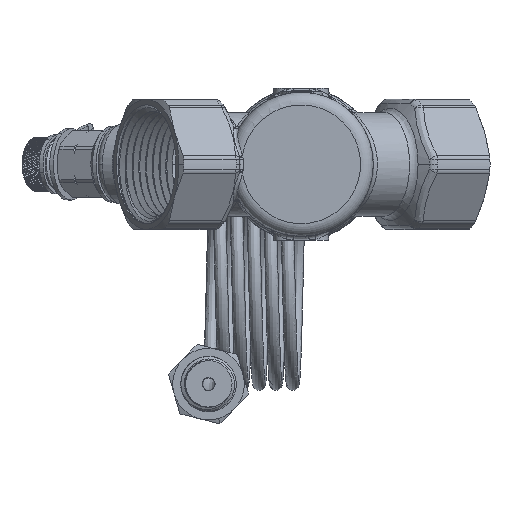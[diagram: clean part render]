
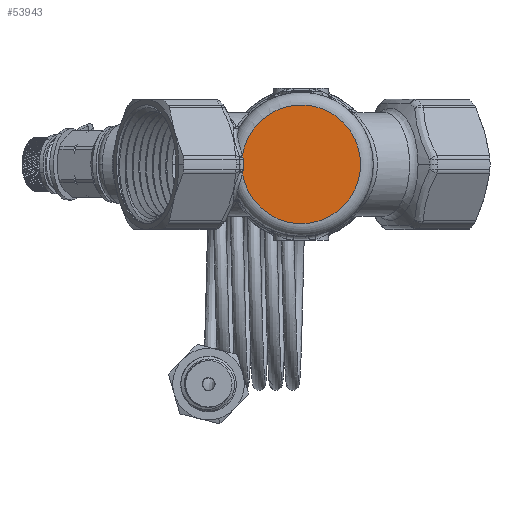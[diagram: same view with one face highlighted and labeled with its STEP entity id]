
A CAD part, front view. The second image highlights one B-rep face of the part: STEP entity #53943.
In plain terms, the highlighted planar face has unit normal (0, -1, 0).
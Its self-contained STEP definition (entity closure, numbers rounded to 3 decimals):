
#1287 = CARTESIAN_POINT ( 'NONE',  ( -16.391, -57.3, -1.821 ) ) ;
#4776 = CARTESIAN_POINT ( 'NONE',  ( -16.391, -57.3, 1.821 ) ) ;
#8828 = EDGE_CURVE ( 'NONE', #87993, #249132, #281576, .T. ) ;
#14526 = AXIS2_PLACEMENT_3D ( 'NONE', #133174, #241859, #270885 ) ;
#27870 = CARTESIAN_POINT ( 'NONE',  ( -2.5, -57.3, 0. ) ) ;
#30076 = CIRCLE ( 'NONE', #76339, 2.678 ) ;
#43268 = B_SPLINE_CURVE_WITH_KNOTS ( 'NONE', 3,
 ( #111840, #1287, #332914, #285713 ),
 .UNSPECIFIED., .F., .F.,
 ( 4, 4 ),
 ( 0., 0. ),
 .UNSPECIFIED. ) ;
#48578 = DIRECTION ( 'NONE',  ( 0., 1., 0. ) ) ;
#53943 = ADVANCED_FACE ( 'NONE', ( #330471 ), #334067, .F. ) ;
#65124 = EDGE_CURVE ( 'NONE', #97700, #112127, #43268, .T. ) ;
#76339 = AXIS2_PLACEMENT_3D ( 'NONE', #287816, #240490, #153643 ) ;
#77379 = ORIENTED_EDGE ( 'NONE', *, *, #173887, .T. ) ;
#82201 = DIRECTION ( 'NONE',  ( 0., 1., 0. ) ) ;
#87993 = VERTEX_POINT ( 'NONE', #291632 ) ;
#91353 = EDGE_LOOP ( 'NONE', ( #254234, #213155, #201722, #218021, #77379, #206273 ) ) ;
#96732 = EDGE_CURVE ( 'NONE', #274308, #143286, #145989, .T. ) ;
#97700 = VERTEX_POINT ( 'NONE', #342727 ) ;
#108799 = CIRCLE ( 'NONE', #311443, 2.678 ) ;
#111840 = CARTESIAN_POINT ( 'NONE',  ( -16.365, -57.3, -1.711 ) ) ;
#112127 = VERTEX_POINT ( 'NONE', #194622 ) ;
#117095 = CARTESIAN_POINT ( 'NONE',  ( -16.365, -57.3, 1.711 ) ) ;
#133174 = CARTESIAN_POINT ( 'NONE',  ( -2.5, -57.3, 0. ) ) ;
#140688 = CARTESIAN_POINT ( 'NONE',  ( -16.452, -57.3, 2.041 ) ) ;
#143286 = VERTEX_POINT ( 'NONE', #269102 ) ;
#145989 = B_SPLINE_CURVE_WITH_KNOTS ( 'NONE', 3,
 ( #140688, #339984, #4776, #117095 ),
 .UNSPECIFIED., .F., .F.,
 ( 4, 4 ),
 ( 0., 0. ),
 .UNSPECIFIED. ) ;
#153643 = DIRECTION ( 'NONE',  ( 1., 0., 0. ) ) ;
#160007 = AXIS2_PLACEMENT_3D ( 'NONE', #27870, #82201, #198136 ) ;
#164448 = CARTESIAN_POINT ( 'NONE',  ( -18.969, -57.3, -1.088 ) ) ;
#169558 = CARTESIAN_POINT ( 'NONE',  ( -16.295, -57.3, 1.236 ) ) ;
#173887 = EDGE_CURVE ( 'NONE', #143286, #87993, #30076, .T. ) ;
#194622 = CARTESIAN_POINT ( 'NONE',  ( -16.452, -57.3, -2.041 ) ) ;
#198136 = DIRECTION ( 'NONE',  ( 1., 0., 0. ) ) ;
#199705 = EDGE_CURVE ( 'NONE', #112127, #274308, #355941, .T. ) ;
#201722 = ORIENTED_EDGE ( 'NONE', *, *, #199705, .T. ) ;
#206273 = ORIENTED_EDGE ( 'NONE', *, *, #8828, .T. ) ;
#213155 = ORIENTED_EDGE ( 'NONE', *, *, #65124, .T. ) ;
#218021 = ORIENTED_EDGE ( 'NONE', *, *, #96732, .T. ) ;
#220568 = DIRECTION ( 'NONE',  ( 1., 0., 0. ) ) ;
#231915 = CARTESIAN_POINT ( 'NONE',  ( -16.452, -57.3, 2.041 ) ) ;
#240490 = DIRECTION ( 'NONE',  ( 0., 1., 0. ) ) ;
#241859 = DIRECTION ( 'NONE',  ( 0., -1., 0. ) ) ;
#249132 = VERTEX_POINT ( 'NONE', #322724 ) ;
#249261 = CARTESIAN_POINT ( 'NONE',  ( -16.249, -57.3, 0.413 ) ) ;
#254234 = ORIENTED_EDGE ( 'NONE', *, *, #309862, .T. ) ;
#269102 = CARTESIAN_POINT ( 'NONE',  ( -16.365, -57.3, 1.711 ) ) ;
#270885 = DIRECTION ( 'NONE',  ( -1., 0., 0. ) ) ;
#272936 = CARTESIAN_POINT ( 'NONE',  ( -16.249, -57.3, -0.413 ) ) ;
#274308 = VERTEX_POINT ( 'NONE', #231915 ) ;
#281576 = B_SPLINE_CURVE_WITH_KNOTS ( 'NONE', 3,
 ( #169558, #249261, #272936, #334485 ),
 .UNSPECIFIED., .F., .F.,
 ( 4, 4 ),
 ( 0., 0.002 ),
 .UNSPECIFIED. ) ;
#285713 = CARTESIAN_POINT ( 'NONE',  ( -16.452, -57.3, -2.041 ) ) ;
#287816 = CARTESIAN_POINT ( 'NONE',  ( -18.969, -57.3, 1.088 ) ) ;
#291632 = CARTESIAN_POINT ( 'NONE',  ( -16.295, -57.3, 1.236 ) ) ;
#309862 = EDGE_CURVE ( 'NONE', #249132, #97700, #108799, .T. ) ;
#311443 = AXIS2_PLACEMENT_3D ( 'NONE', #164448, #48578, #220568 ) ;
#322724 = CARTESIAN_POINT ( 'NONE',  ( -16.295, -57.3, -1.236 ) ) ;
#330471 = FACE_OUTER_BOUND ( 'NONE', #91353, .T. ) ;
#332914 = CARTESIAN_POINT ( 'NONE',  ( -16.42, -57.3, -1.931 ) ) ;
#334067 = PLANE ( 'NONE',  #160007 ) ;
#334485 = CARTESIAN_POINT ( 'NONE',  ( -16.295, -57.3, -1.236 ) ) ;
#339984 = CARTESIAN_POINT ( 'NONE',  ( -16.42, -57.3, 1.931 ) ) ;
#342727 = CARTESIAN_POINT ( 'NONE',  ( -16.365, -57.3, -1.711 ) ) ;
#355941 = CIRCLE ( 'NONE', #14526, 14.1 ) ;
